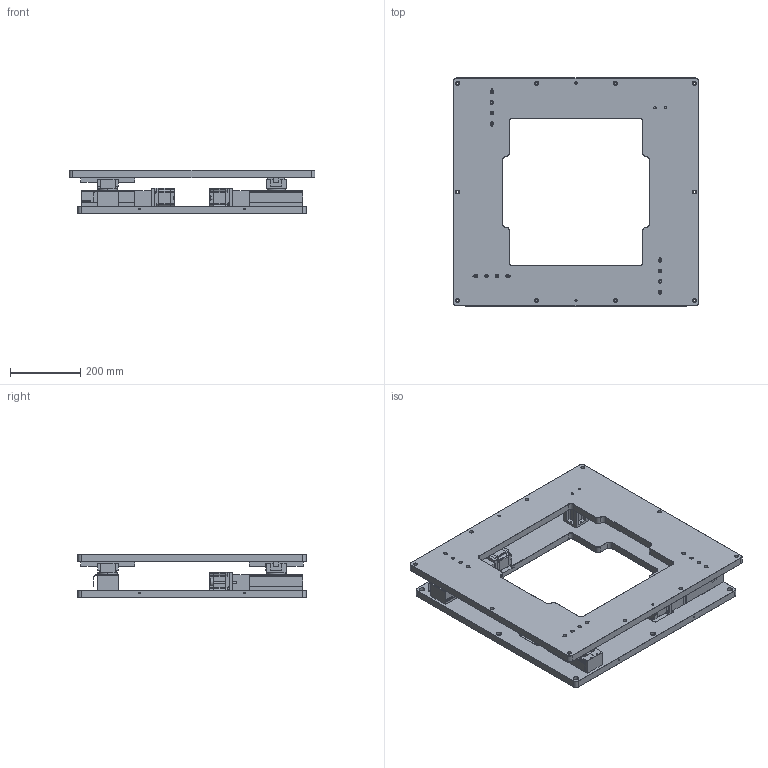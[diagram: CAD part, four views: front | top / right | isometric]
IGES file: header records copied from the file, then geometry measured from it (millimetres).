
Start section: SolidWorks IGES file using analytic representation for surfaces
Global section: file name: E:\ATN\00-Special-Case\002 雙翌\AMe60-7065c2-123-650p-20c00206-201-V1\給客戶\AMe60-7065c2-123-650p-20c00206-201-V1.IGS; native system: SolidWorks 2018; preprocessor: SolidWorks 2018; author: sting; date: 230510.112142; units: millimetre
Bounding box: 700 x 650 x 123 mm (x, y, z)
Surface area: 1569267.6 mm2 (no closed solid volume)
Topology: 0 solids, 0 shells, 859 faces, 15474 edges, 15474 vertices
Faces by surface type: revolution 440, bspline 419
